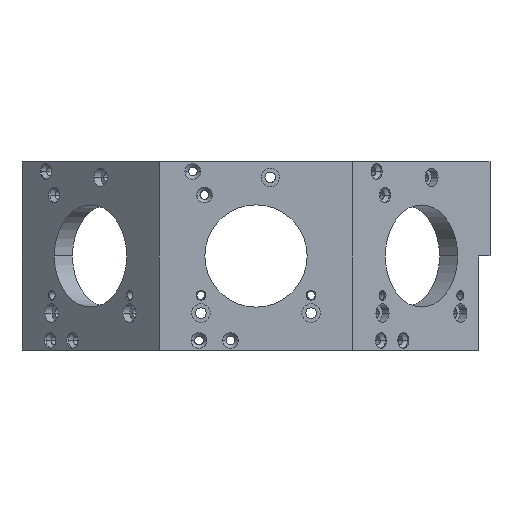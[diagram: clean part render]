
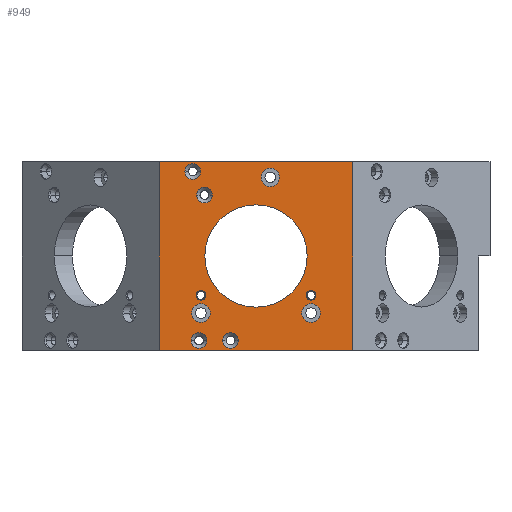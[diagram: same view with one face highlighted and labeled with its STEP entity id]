
A CAD part, front view. The second image highlights one B-rep face of the part: STEP entity #949.
In plain terms, the highlighted planar face has unit normal (0, -1, 0).
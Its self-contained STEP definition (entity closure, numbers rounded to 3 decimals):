
#949=ADVANCED_FACE('',(#1944,#1945,#1946,#1947,#1948,#1949,#1950,#1951,#1952,
#1953,#1431),#4955,.T.);
#1431=FACE_OUTER_BOUND('',#2095,.F.);
#1944=FACE_BOUND('',#2085,.F.);
#1945=FACE_BOUND('',#2086,.F.);
#1946=FACE_BOUND('',#2087,.F.);
#1947=FACE_BOUND('',#2088,.F.);
#1948=FACE_BOUND('',#2089,.F.);
#1949=FACE_BOUND('',#2090,.F.);
#1950=FACE_BOUND('',#2091,.F.);
#1951=FACE_BOUND('',#2092,.F.);
#1952=FACE_BOUND('',#2093,.F.);
#1953=FACE_BOUND('',#2094,.F.);
#2085=EDGE_LOOP('',(#2843,#2844));
#2086=EDGE_LOOP('',(#2845,#2846));
#2087=EDGE_LOOP('',(#2847,#2848));
#2088=EDGE_LOOP('',(#2849,#2850));
#2089=EDGE_LOOP('',(#2851,#2852));
#2090=EDGE_LOOP('',(#2853,#2854));
#2091=EDGE_LOOP('',(#2855,#2856));
#2092=EDGE_LOOP('',(#2857,#2858));
#2093=EDGE_LOOP('',(#2859,#2860));
#2094=EDGE_LOOP('',(#2861,#2862));
#2095=EDGE_LOOP('',(#2863,#2864,#2865,#2866));
#2843=ORIENTED_EDGE('',*,*,#9332,.T.);
#2844=ORIENTED_EDGE('',*,*,#9331,.T.);
#2845=ORIENTED_EDGE('',*,*,#9352,.T.);
#2846=ORIENTED_EDGE('',*,*,#9351,.T.);
#2847=ORIENTED_EDGE('',*,*,#9379,.T.);
#2848=ORIENTED_EDGE('',*,*,#9380,.T.);
#2849=ORIENTED_EDGE('',*,*,#9396,.T.);
#2850=ORIENTED_EDGE('',*,*,#9395,.T.);
#2851=ORIENTED_EDGE('',*,*,#9388,.T.);
#2852=ORIENTED_EDGE('',*,*,#9387,.T.);
#2853=ORIENTED_EDGE('',*,*,#9394,.T.);
#2854=ORIENTED_EDGE('',*,*,#9393,.T.);
#2855=ORIENTED_EDGE('',*,*,#9392,.T.);
#2856=ORIENTED_EDGE('',*,*,#9391,.T.);
#2857=ORIENTED_EDGE('',*,*,#9384,.T.);
#2858=ORIENTED_EDGE('',*,*,#9383,.T.);
#2859=ORIENTED_EDGE('',*,*,#9350,.T.);
#2860=ORIENTED_EDGE('',*,*,#9349,.T.);
#2861=ORIENTED_EDGE('',*,*,#9328,.T.);
#2862=ORIENTED_EDGE('',*,*,#9327,.T.);
#2863=ORIENTED_EDGE('',*,*,#9309,.F.);
#2864=ORIENTED_EDGE('',*,*,#9237,.F.);
#2865=ORIENTED_EDGE('',*,*,#9194,.T.);
#2866=ORIENTED_EDGE('',*,*,#9212,.T.);
#4955=PLANE('',#12105);
#8101=LINE('',#16162,#8623);
#8107=LINE('',#16180,#8629);
#8112=LINE('',#16205,#8634);
#8135=LINE('',#16277,#8657);
#8623=VECTOR('',#12854,49.291);
#8629=VECTOR('',#12884,48.);
#8634=VECTOR('',#12929,48.);
#8657=VECTOR('',#13050,49.291);
#9194=EDGE_CURVE('',#11438,#11441,#8101,.T.);
#9212=EDGE_CURVE('',#11441,#11382,#8107,.T.);
#9237=EDGE_CURVE('',#11438,#11366,#8112,.T.);
#9309=EDGE_CURVE('',#11366,#11382,#8135,.T.);
#9327=EDGE_CURVE('',#11273,#11272,#10398,.T.);
#9328=EDGE_CURVE('',#11272,#11273,#10399,.T.);
#9331=EDGE_CURVE('',#11269,#11268,#10402,.T.);
#9332=EDGE_CURVE('',#11268,#11269,#10403,.T.);
#9349=EDGE_CURVE('',#11249,#11248,#10408,.T.);
#9350=EDGE_CURVE('',#11248,#11249,#10409,.T.);
#9351=EDGE_CURVE('',#11247,#11246,#10410,.T.);
#9352=EDGE_CURVE('',#11246,#11247,#10411,.T.);
#9379=EDGE_CURVE('',#11223,#11222,#10429,.T.);
#9380=EDGE_CURVE('',#11222,#11223,#10430,.T.);
#9383=EDGE_CURVE('',#11219,#11218,#10433,.T.);
#9384=EDGE_CURVE('',#11218,#11219,#10434,.T.);
#9387=EDGE_CURVE('',#11215,#11214,#10437,.T.);
#9388=EDGE_CURVE('',#11214,#11215,#10438,.T.);
#9391=EDGE_CURVE('',#11211,#11210,#10441,.T.);
#9392=EDGE_CURVE('',#11210,#11211,#10442,.T.);
#9393=EDGE_CURVE('',#11209,#11208,#10443,.T.);
#9394=EDGE_CURVE('',#11208,#11209,#10444,.T.);
#9395=EDGE_CURVE('',#11207,#11206,#10445,.T.);
#9396=EDGE_CURVE('',#11206,#11207,#10446,.T.);
#10398=CIRCLE('',#11742,2.);
#10399=CIRCLE('',#11743,2.);
#10402=CIRCLE('',#11746,2.);
#10403=CIRCLE('',#11747,2.);
#10408=CIRCLE('',#11752,2.);
#10409=CIRCLE('',#11753,2.);
#10410=CIRCLE('',#11754,2.);
#10411=CIRCLE('',#11755,2.);
#10429=CIRCLE('',#11773,1.25);
#10430=CIRCLE('',#11774,1.25);
#10433=CIRCLE('',#11777,2.35);
#10434=CIRCLE('',#11778,2.35);
#10437=CIRCLE('',#11781,2.35);
#10438=CIRCLE('',#11782,2.35);
#10441=CIRCLE('',#11785,2.35);
#10442=CIRCLE('',#11786,2.35);
#10443=CIRCLE('',#11787,13.);
#10444=CIRCLE('',#11788,13.);
#10445=CIRCLE('',#11789,1.25);
#10446=CIRCLE('',#11790,1.25);
#11206=VERTEX_POINT('',#15816);
#11207=VERTEX_POINT('',#15817);
#11208=VERTEX_POINT('',#15818);
#11209=VERTEX_POINT('',#15819);
#11210=VERTEX_POINT('',#15820);
#11211=VERTEX_POINT('',#15821);
#11214=VERTEX_POINT('',#15824);
#11215=VERTEX_POINT('',#15825);
#11218=VERTEX_POINT('',#15828);
#11219=VERTEX_POINT('',#15829);
#11222=VERTEX_POINT('',#15832);
#11223=VERTEX_POINT('',#15833);
#11246=VERTEX_POINT('',#15856);
#11247=VERTEX_POINT('',#15857);
#11248=VERTEX_POINT('',#15858);
#11249=VERTEX_POINT('',#15859);
#11268=VERTEX_POINT('',#15878);
#11269=VERTEX_POINT('',#15879);
#11272=VERTEX_POINT('',#15882);
#11273=VERTEX_POINT('',#15883);
#11366=VERTEX_POINT('',#15976);
#11382=VERTEX_POINT('',#15992);
#11438=VERTEX_POINT('',#16048);
#11441=VERTEX_POINT('',#16051);
#11742=AXIS2_PLACEMENT_3D('',#16295,#13074,#13075);
#11743=AXIS2_PLACEMENT_3D('',#16296,#13076,#13077);
#11746=AXIS2_PLACEMENT_3D('',#16299,#13082,#13083);
#11747=AXIS2_PLACEMENT_3D('',#16300,#13084,#13085);
#11752=AXIS2_PLACEMENT_3D('',#16317,#13106,#13107);
#11753=AXIS2_PLACEMENT_3D('',#16318,#13108,#13109);
#11754=AXIS2_PLACEMENT_3D('',#16319,#13110,#13111);
#11755=AXIS2_PLACEMENT_3D('',#16320,#13112,#13113);
#11773=AXIS2_PLACEMENT_3D('',#16347,#13157,#13158);
#11774=AXIS2_PLACEMENT_3D('',#16348,#13159,#13160);
#11777=AXIS2_PLACEMENT_3D('',#16351,#13165,#13166);
#11778=AXIS2_PLACEMENT_3D('',#16352,#13167,#13168);
#11781=AXIS2_PLACEMENT_3D('',#16355,#13173,#13174);
#11782=AXIS2_PLACEMENT_3D('',#16356,#13175,#13176);
#11785=AXIS2_PLACEMENT_3D('',#16359,#13181,#13182);
#11786=AXIS2_PLACEMENT_3D('',#16360,#13183,#13184);
#11787=AXIS2_PLACEMENT_3D('',#16361,#13185,#13186);
#11788=AXIS2_PLACEMENT_3D('',#16362,#13187,#13188);
#11789=AXIS2_PLACEMENT_3D('',#16363,#13189,#13190);
#11790=AXIS2_PLACEMENT_3D('',#16364,#13191,#13192);
#12105=AXIS2_PLACEMENT_3D('',#17011,#14153,#14154);
#12854=DIRECTION('',(1.,0.,0.));
#12884=DIRECTION('',(0.,0.,-1.));
#12929=DIRECTION('',(0.,0.,-1.));
#13050=DIRECTION('',(1.,0.,0.));
#13074=DIRECTION('',(0.,-1.,0.));
#13075=DIRECTION('',(-1.,0.,0.));
#13076=DIRECTION('',(0.,-1.,0.));
#13077=DIRECTION('',(1.,0.,0.));
#13082=DIRECTION('',(0.,-1.,0.));
#13083=DIRECTION('',(-1.,0.,0.));
#13084=DIRECTION('',(0.,-1.,0.));
#13085=DIRECTION('',(1.,0.,0.));
#13106=DIRECTION('',(0.,-1.,0.));
#13107=DIRECTION('',(-1.,0.,0.));
#13108=DIRECTION('',(0.,-1.,0.));
#13109=DIRECTION('',(1.,0.,0.));
#13110=DIRECTION('',(0.,-1.,0.));
#13111=DIRECTION('',(-1.,0.,0.));
#13112=DIRECTION('',(0.,-1.,0.));
#13113=DIRECTION('',(1.,0.,0.));
#13157=DIRECTION('',(0.,-1.,0.));
#13158=DIRECTION('',(0.,0.,1.));
#13159=DIRECTION('',(0.,-1.,0.));
#13160=DIRECTION('',(0.,0.,-1.));
#13165=DIRECTION('',(0.,-1.,0.));
#13166=DIRECTION('',(1.,0.,0.));
#13167=DIRECTION('',(0.,-1.,0.));
#13168=DIRECTION('',(-1.,0.,0.));
#13173=DIRECTION('',(0.,-1.,0.));
#13174=DIRECTION('',(1.,0.,0.));
#13175=DIRECTION('',(0.,-1.,0.));
#13176=DIRECTION('',(-1.,0.,0.));
#13181=DIRECTION('',(0.,-1.,0.));
#13182=DIRECTION('',(1.,0.,0.));
#13183=DIRECTION('',(0.,-1.,0.));
#13184=DIRECTION('',(-1.,0.,0.));
#13185=DIRECTION('',(0.,-1.,0.));
#13186=DIRECTION('',(-1.,0.,0.));
#13187=DIRECTION('',(0.,-1.,0.));
#13188=DIRECTION('',(1.,0.,0.));
#13189=DIRECTION('',(0.,-1.,0.));
#13190=DIRECTION('',(0.,0.,-1.));
#13191=DIRECTION('',(0.,-1.,0.));
#13192=DIRECTION('',(0.,0.,1.));
#14153=DIRECTION('',(0.,-1.,0.));
#14154=DIRECTION('',(1.,0.,0.));
#15816=CARTESIAN_POINT('',(270.375,359.752,448.124));
#15817=CARTESIAN_POINT('',(270.375,359.752,445.624));
#15818=CARTESIAN_POINT('',(297.375,359.752,456.874));
#15819=CARTESIAN_POINT('',(271.375,359.752,456.874));
#15820=CARTESIAN_POINT('',(285.65,359.752,476.874));
#15821=CARTESIAN_POINT('',(290.35,359.752,476.874));
#15824=CARTESIAN_POINT('',(268.025,359.752,442.374));
#15825=CARTESIAN_POINT('',(272.725,359.752,442.374));
#15828=CARTESIAN_POINT('',(296.025,359.752,442.374));
#15829=CARTESIAN_POINT('',(300.725,359.752,442.374));
#15832=CARTESIAN_POINT('',(298.375,359.752,445.624));
#15833=CARTESIAN_POINT('',(298.375,359.752,448.124));
#15856=CARTESIAN_POINT('',(271.875,359.752,435.374));
#15857=CARTESIAN_POINT('',(267.875,359.752,435.374));
#15858=CARTESIAN_POINT('',(279.875,359.752,435.374));
#15859=CARTESIAN_POINT('',(275.875,359.752,435.374));
#15878=CARTESIAN_POINT('',(270.298,359.752,478.375));
#15879=CARTESIAN_POINT('',(266.298,359.752,478.375));
#15882=CARTESIAN_POINT('',(273.298,359.752,472.375));
#15883=CARTESIAN_POINT('',(269.298,359.752,472.375));
#15976=CARTESIAN_POINT('',(259.729,359.752,432.874));
#15992=CARTESIAN_POINT('',(309.021,359.752,432.874));
#16048=CARTESIAN_POINT('',(259.729,359.752,480.874));
#16051=CARTESIAN_POINT('',(309.021,359.752,480.874));
#16162=CARTESIAN_POINT('',(259.729,359.752,480.874));
#16180=CARTESIAN_POINT('',(309.021,359.752,480.874));
#16205=CARTESIAN_POINT('',(259.729,359.752,480.874));
#16277=CARTESIAN_POINT('',(259.729,359.752,432.874));
#16295=CARTESIAN_POINT('',(271.298,359.752,472.375));
#16296=CARTESIAN_POINT('',(271.298,359.752,472.375));
#16299=CARTESIAN_POINT('',(268.298,359.752,478.375));
#16300=CARTESIAN_POINT('',(268.298,359.752,478.375));
#16317=CARTESIAN_POINT('',(277.875,359.752,435.374));
#16318=CARTESIAN_POINT('',(277.875,359.752,435.374));
#16319=CARTESIAN_POINT('',(269.875,359.752,435.374));
#16320=CARTESIAN_POINT('',(269.875,359.752,435.374));
#16347=CARTESIAN_POINT('',(298.375,359.752,446.874));
#16348=CARTESIAN_POINT('',(298.375,359.752,446.874));
#16351=CARTESIAN_POINT('',(298.375,359.752,442.374));
#16352=CARTESIAN_POINT('',(298.375,359.752,442.374));
#16355=CARTESIAN_POINT('',(270.375,359.752,442.374));
#16356=CARTESIAN_POINT('',(270.375,359.752,442.374));
#16359=CARTESIAN_POINT('',(288.,359.752,476.874));
#16360=CARTESIAN_POINT('',(288.,359.752,476.874));
#16361=CARTESIAN_POINT('',(284.375,359.752,456.874));
#16362=CARTESIAN_POINT('',(284.375,359.752,456.874));
#16363=CARTESIAN_POINT('',(270.375,359.752,446.874));
#16364=CARTESIAN_POINT('',(270.375,359.752,446.874));
#17011=CARTESIAN_POINT('',(259.236,359.752,432.381));
